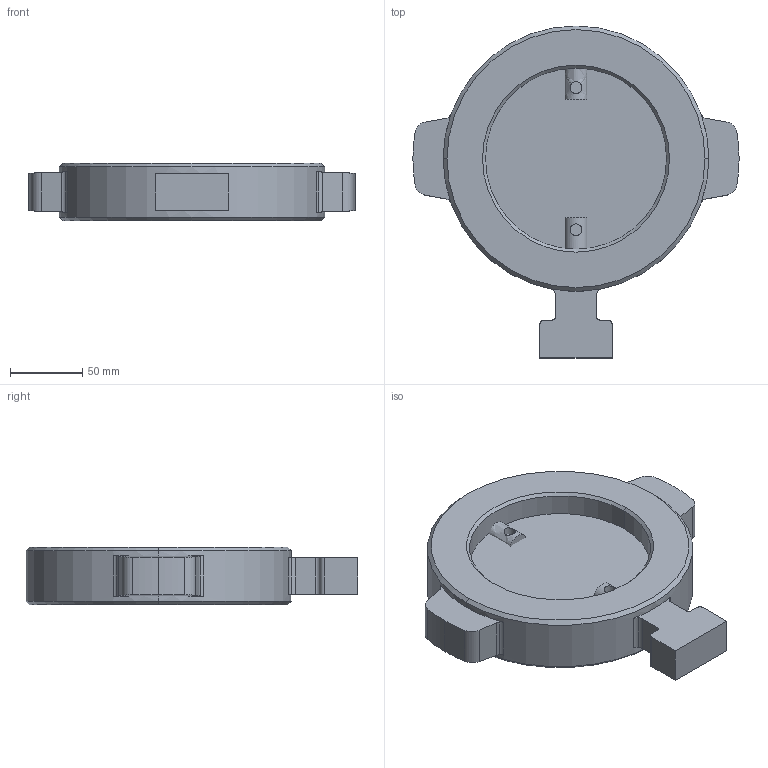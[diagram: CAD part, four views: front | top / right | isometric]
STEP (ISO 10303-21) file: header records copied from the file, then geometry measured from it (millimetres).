
FILE_DESCRIPTION((''),'2;1');
FILE_NAME('KL000006.dwg.stp','2006-10-04T11:29:51',(''),(''),'Mechanical Desktop 2006','Mechanical Desktop 2006',', , ');
FILE_SCHEMA(('AUTOMOTIVE_DESIGN { 1 2 10303 214 0 1 1 1 }'));
Length unit declared in the file: millimetre
Products named in the file (1): Product
Bounding box: 225 x 229 x 40 mm (x, y, z)
Volume: 743106.5 mm3; surface area: 107720.1 mm2
Topology: 4 solids, 4 shells, 71 faces, 178 edges, 116 vertices
Faces by surface type: cylinder 30, plane 19, bspline 14, cone 8
Entity records: 2503 total; most frequent: CARTESIAN_POINT 720, DIRECTION 372, ORIENTED_EDGE 356, EDGE_CURVE 178, AXIS2_PLACEMENT_3D 144, VERTEX_POINT 116, VECTOR 84, LINE 84
